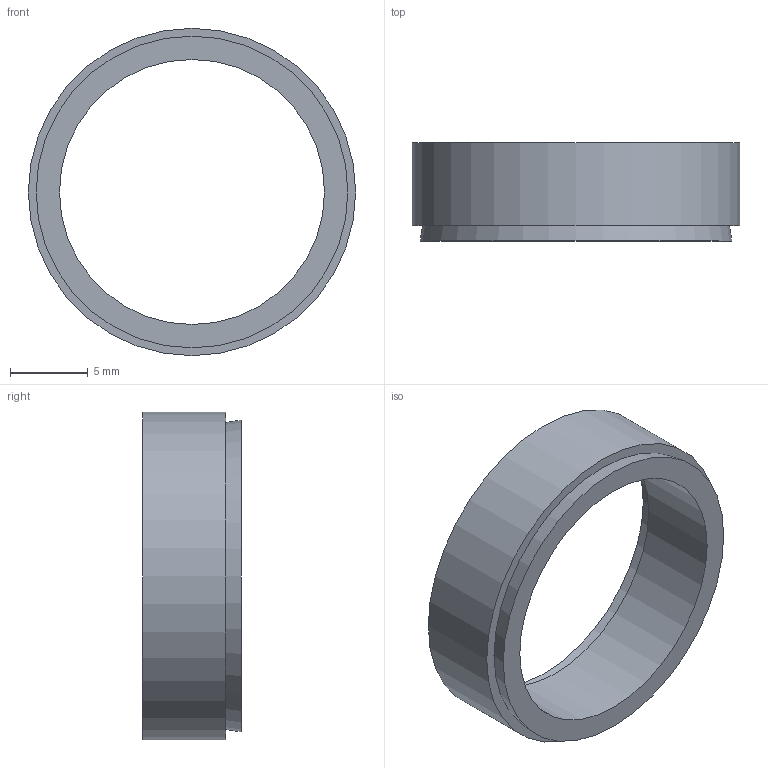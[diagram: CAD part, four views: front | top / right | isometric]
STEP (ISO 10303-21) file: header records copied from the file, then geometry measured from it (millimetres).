
FILE_DESCRIPTION( ( 'Unknown' ), '1' );
FILE_NAME( 'C:/Dokumente und Einstellungen/Sven/Desktop/homepage/cad - homepage/KBS50/KBS 50 - 17 x 21.stp', 'Unknown', ( 'Unknown' ), ( 'Unknown' ), 'XStep 1.0', 'Unknown', ' ' );
FILE_SCHEMA( ( 'automotive_design' ) );
Length unit declared in the file: millimetre
Products named in the file (1): 1
Bounding box: 21 x 6.3 x 21 mm (x, y, z)
Volume: 682.9 mm3; surface area: 1011.3 mm2
Topology: 1 solids, 1 shells, 8 faces, 12 edges, 8 vertices
Faces by surface type: plane 4, cylinder 2, cone 2
Full cylindrical faces by diameter (mm): 17 x1, 21 x1
Entity records: 248 total; most frequent: DIRECTION 34, CARTESIAN_POINT 25, AXIS2_PLACEMENT_3D 17, EDGE_LOOP 16, ORIENTED_EDGE 16, FACE_OUTER_BOUND 10, STYLED_ITEM 8, PRESENTATION_STYLE_ASSIGNMENT 8
